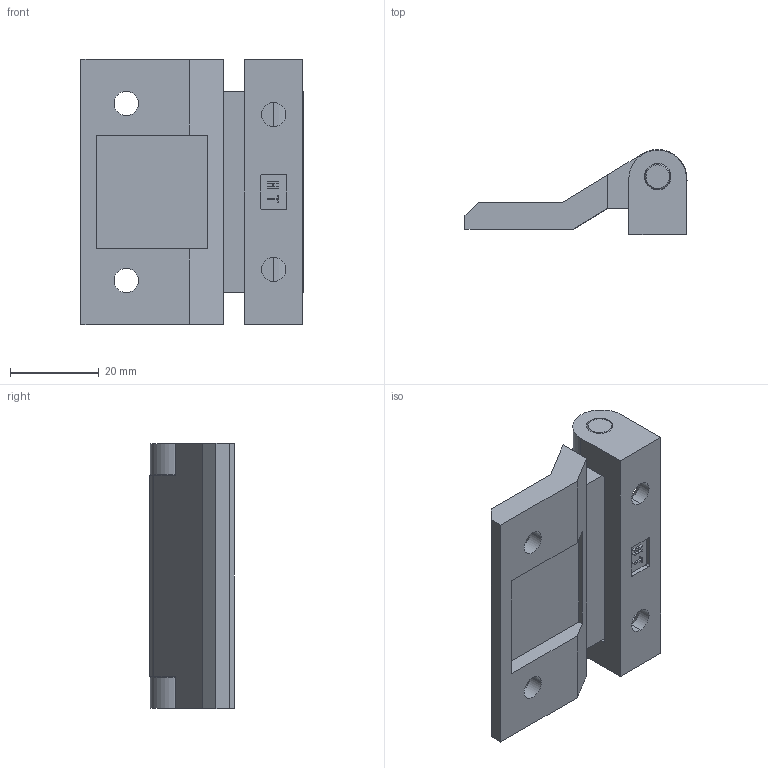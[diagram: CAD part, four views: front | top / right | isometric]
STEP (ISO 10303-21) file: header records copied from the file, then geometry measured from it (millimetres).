
FILE_DESCRIPTION (( 'STEP AP203' ), '1' );
FILE_NAME ('XG02-019-1S(上传).STEP', '2026-03-21T09:19:42', ( '微软用户' ), ( '微软中国' ), 'SwSTEP 2.0', 'SolidWorks 2024', '' );
FILE_SCHEMA (( 'CONFIG_CONTROL_DESIGN' ));
Length unit declared in the file: millimetre
Products named in the file (1): XG02-019-1S(上传)
Bounding box: 50.17 x 19.14 x 60 mm (x, y, z)
Volume: 24148.4 mm3; surface area: 11073.9 mm2
Topology: 1 solids, 1 shells, 98 faces, 251 edges, 164 vertices
Faces by surface type: plane 57, cylinder 29, cone 12
Entity records: 3066 total; most frequent: DIRECTION 523, CARTESIAN_POINT 514, ORIENTED_EDGE 502, EDGE_CURVE 251, VECTOR 177, LINE 177, AXIS2_PLACEMENT_3D 173, VERTEX_POINT 164
